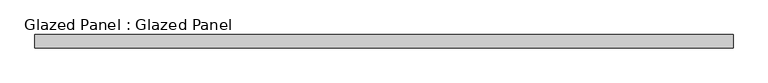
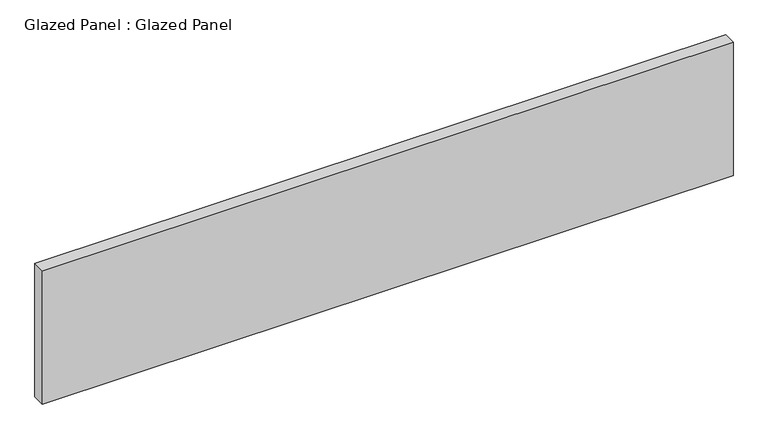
"""IFC4 building model written with IfcOpenShell, lengths in millimetres: plate geometry, Glazed Panel : Glazed Panel."""

from ifc_helpers import new_model, si_unit, origin, origin_with_axes, place, context, project, spatial, polyline, outline, extrude, source, transform, mapped, element, save


def glazed_panel_glazed_panel_56ef64bd(model_context):
    return source(origin(), model_context, "Body", "SweptSolid", [
        extrude(outline(polyline([(668.3375, 38.1), (-668.3375, 38.1), (-668.3375, 63.5), (668.3375, 63.5), (668.3375, 38.1)])), origin_with_axes(), (0.0, 0.0, 1.0), 273.05),
    ])


if __name__ == "__main__":
    model = new_model("IFC4")
    model_context = context("Model", 3, world=origin())
    ifc_project = project(units=[si_unit("LENGTHUNIT", "METRE", prefix="MILLI")], contexts=[model_context])
    site = spatial("IfcSite", under=ifc_project)
    building = spatial("IfcBuilding", under=site)
    placement = place(None, origin())
    glazed_panel_glazed_panel_shape = glazed_panel_glazed_panel_56ef64bd(model_context)
    element("IfcPlate", 1, ObjectType="Glazed Panel : Glazed Panel", at=placement, inside=building, context=model_context, shape_type="MappedRepresentation", body=[
        mapped(glazed_panel_glazed_panel_shape, transform((0.0, 0.0, 0.0), x_axis=(1.0, 0.0, 0.0), y_axis=(0.0, 1.0, 0.0), z_axis=(0.0, 0.0, 1.0))),
    ])
    save(model, "model.ifc")
